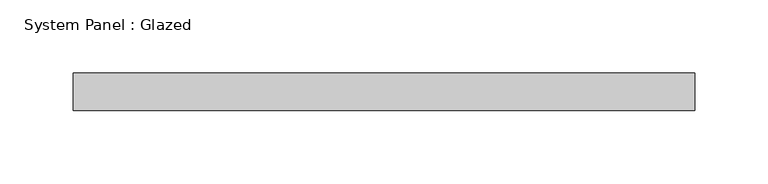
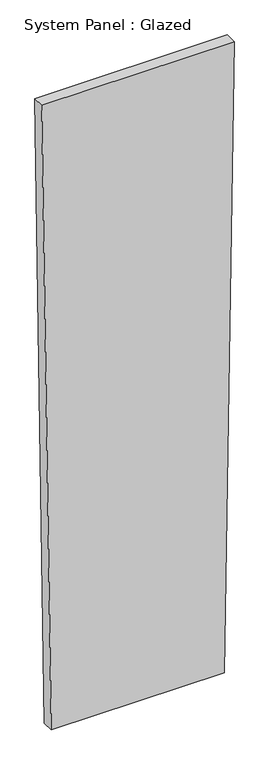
"""IFC4 building model written with IfcOpenShell, lengths in millimetres: plate geometry, System Panel : Glazed."""

from ifc_helpers import new_model, si_unit, frame, origin, place, context, project, spatial, polyline, outline, extrude, source, transform, mapped, element, save


def system_panel_glazed_0a8d51ec(model_context):
    return source(origin(), model_context, "Body", "SweptSolid", [
        extrude(outline(polyline([(0.0, -190.6634556), (0.0, 190.6634556), (1460.3417351, 211.71108), (1460.3417351, -211.71108), (0.0, -190.6634556)])), frame((0.0, -44.45, 0.0), z_axis=(0.0, 1.0, 0.0), x_axis=(0.0, 0.0, 1.0)), (0.0, 0.0, 1.0), 25.4),
    ])


if __name__ == "__main__":
    model = new_model("IFC4")
    model_context = context("Model", 3, world=origin())
    ifc_project = project(units=[si_unit("LENGTHUNIT", "METRE", prefix="MILLI")], contexts=[model_context])
    site = spatial("IfcSite", under=ifc_project)
    building = spatial("IfcBuilding", under=site)
    placement = place(None, origin())
    system_panel_glazed_shape = system_panel_glazed_0a8d51ec(model_context)
    element("IfcPlate", 1, ObjectType="System Panel : Glazed", at=placement, inside=building, context=model_context, shape_type="MappedRepresentation", body=[
        mapped(system_panel_glazed_shape, transform((0.0, 0.0, 0.0), x_axis=(1.0, 0.0, 0.0), y_axis=(0.0, 1.0, 0.0), z_axis=(0.0, 0.0, 1.0))),
    ])
    save(model, "model.ifc")
